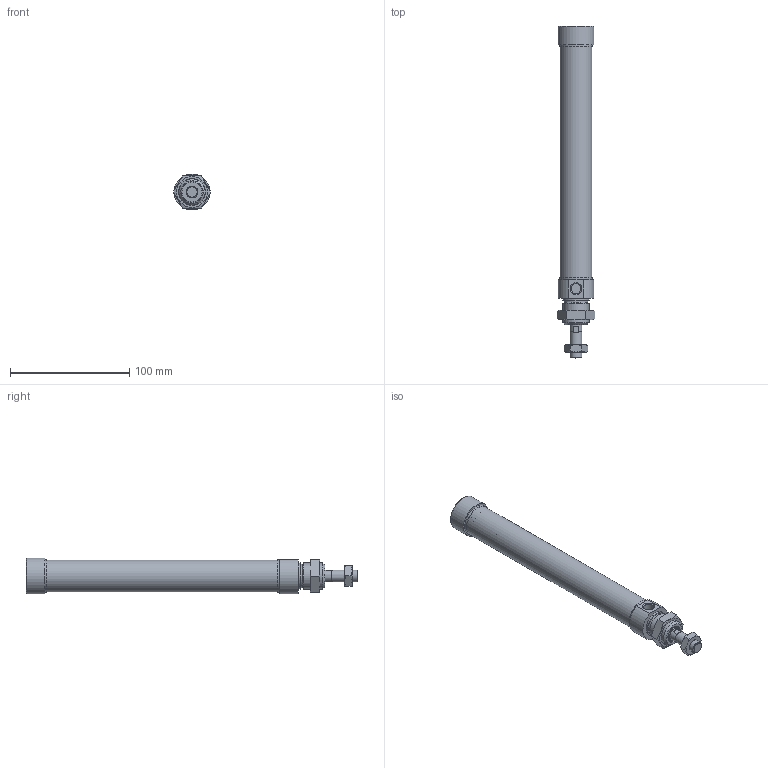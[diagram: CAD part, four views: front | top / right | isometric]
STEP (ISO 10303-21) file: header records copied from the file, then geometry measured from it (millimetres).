
FILE_DESCRIPTION(/* description */ ('Unknown'),/* implementation_level */ '2;1');
FILE_NAME(/* name */ 'RIMA 25_160',/* time_stamp */ '2024-08-30T14:24:29+02:00',/* author */ ('Unknown'),/* organization */ ('Unknown'),/* preprocessor_version */ 'ST-DEVELOPER v16.7',/* originating_system */ 'Solid Edge',/* authorisation */ 'Unknown');
FILE_SCHEMA (('AUTOMOTIVE_DESIGN {1 0 10303 214 3 1 1}'));
Length unit declared in the file: millimetre
Products named in the file (7): RIMA 25_160; Profilrohr; Kolbenstange; Kit_1; Kit_2; Mutter_1; Mutter_2
Assembly tree (6 placements, depth 2):
  RIMA 25_160
    Profilrohr
    Kolbenstange
    Kit_1
    Kit_2
    Mutter_1
    Mutter_2
Bounding box: 31.18 x 278 x 30 mm (x, y, z)
Volume: 78985.8 mm3; surface area: 54080.4 mm2
Topology: 6 solids, 6 shells, 121 faces, 238 edges, 144 vertices
Faces by surface type: plane 47, cone 37, cylinder 30, torus 7
Full cylindrical faces by diameter (mm): 2 x1, 8.56 x1, 8.566 x2, 8.647 x1, 10 x2, 10.5 x1, 11.1 x1, 14 x1, 14.1 x1, 16.1 x1, 16.2 x1, 19.7 x1, 20.376 x1, 22 x2, 22.9 x1, 25 x3, 26.5 x1, 27 x2, 30 x1
Entity records: 3643 total; most frequent: CARTESIAN_POINT 514, DIRECTION 491, ORIENTED_EDGE 342, AXIS2_PLACEMENT_3D 230, EDGE_LOOP 201, FACE_BOUND 201, EDGE_CURVE 171, VERTEX_POINT 134
